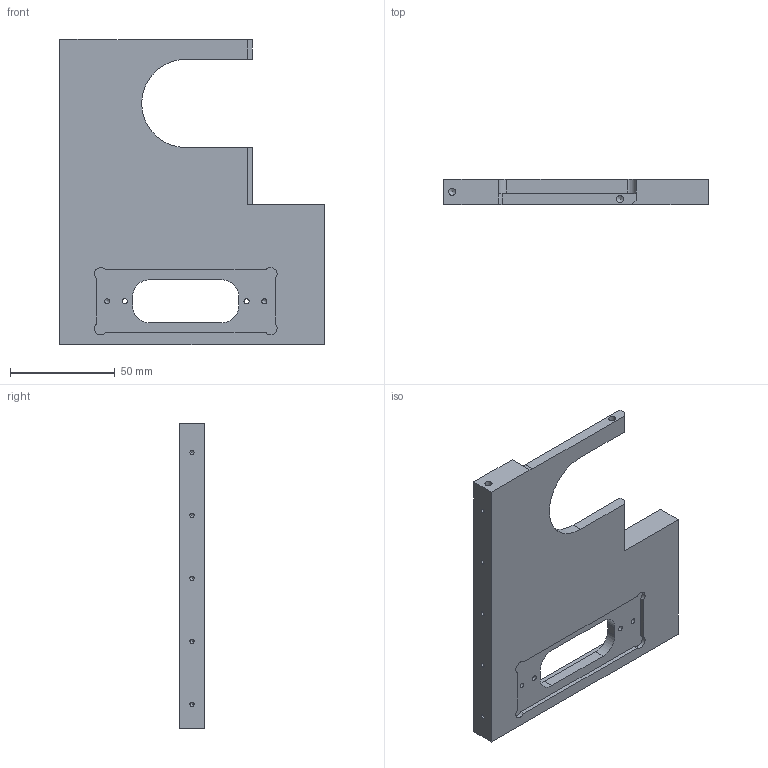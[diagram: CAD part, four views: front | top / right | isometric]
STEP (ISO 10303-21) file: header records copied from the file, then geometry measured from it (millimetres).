
FILE_DESCRIPTION(/* description */ (''),/* implementation_level */ '2;1');
FILE_NAME(/* name */ 'C:\Users\strothej\Documents\ActualDocuments\MicroscopeParts\TwoPhotonSystem\ScanningMechanics\v37\Drawings\Bottom_Support_Plate.stp',/* time_stamp */ '2017-11-13T17:48:07-08:00',/* author */ ('strothej'),/* organization */ (''),/* preprocessor_version */ 'ST-DEVELOPER v16.1',/* originating_system */ 'Autodesk Inventor 2016',/* authorisation */ '');
FILE_SCHEMA (('AUTOMOTIVE_DESIGN { 1 0 10303 214 3 1 1 }'));
Length unit declared in the file: millimetre
Products named in the file (1): Bottom_Support_Plate
Bounding box: 126 x 12 x 145.8 mm (x, y, z)
Volume: 118018.2 mm3; surface area: 35245.8 mm2
Topology: 1 solids, 1 shells, 72 faces, 194 edges, 126 vertices
Faces by surface type: plane 32, cylinder 29, cone 11
Full cylindrical faces by diameter (mm): 2.013 x5, 2.459 x4, 3.4 x2, 4.134 x2
Entity records: 2046 total; most frequent: DIRECTION 360, CARTESIAN_POINT 341, ORIENTED_EDGE 312, EDGE_CURVE 156, AXIS2_PLACEMENT_3D 131, VERTEX_POINT 112, EDGE_LOOP 104, LINE 98
